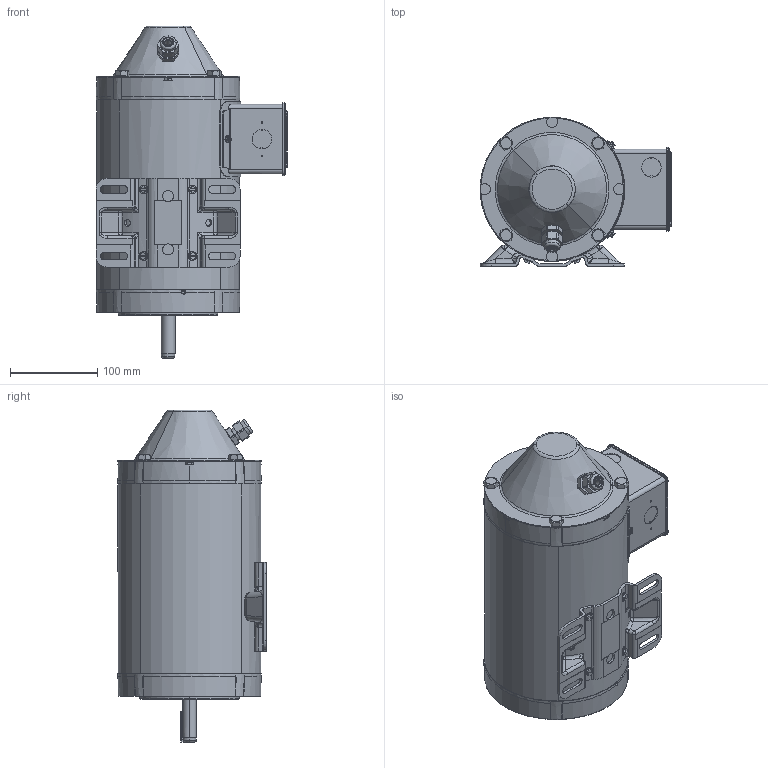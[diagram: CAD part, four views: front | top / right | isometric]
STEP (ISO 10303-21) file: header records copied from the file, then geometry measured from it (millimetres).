
FILE_DESCRIPTION (( 'STEP AP203' ), '1' );
FILE_NAME ('107388-856_Rev00.STEP', '2018-11-13T10:14:48', ( '' ), ( '' ), 'SwSTEP 2.0', 'SolidWorks 2015', '' );
FILE_SCHEMA (( 'CONFIG_CONTROL_DESIGN' ));
Length unit declared in the file: inch
Products named in the file (1): 107388-856_Rev00
Bounding box: 219.9 x 170.6 x 380.3 mm (x, y, z)
Volume: 842047.2 mm3; surface area: 655434.6 mm2
Topology: 41 solids, 41 shells, 3696 faces, 9523 edges, 5982 vertices
Faces by surface type: plane 1403, cylinder 850, cone 629, bspline 509, torus 297, sphere 8
Entity records: 138268 total; most frequent: CARTESIAN_POINT 52736, ORIENTED_EDGE 18966, DIRECTION 16591, EDGE_CURVE 9483, AXIS2_PLACEMENT_3D 6607, VERTEX_POINT 5982, EDGE_LOOP 3985, FACE_OUTER_BOUND 3696
